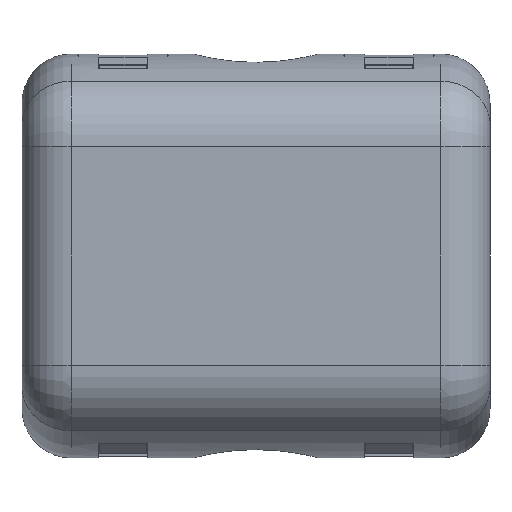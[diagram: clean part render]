
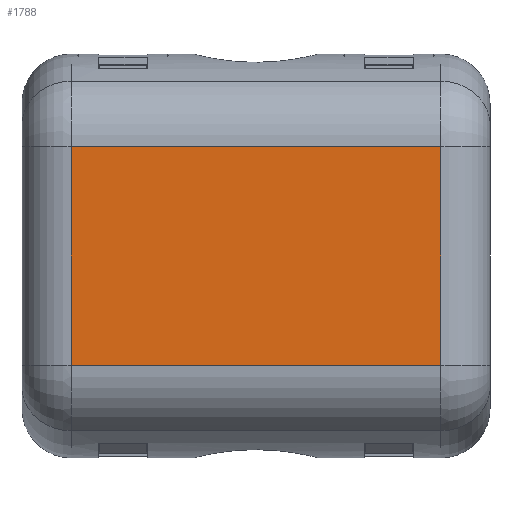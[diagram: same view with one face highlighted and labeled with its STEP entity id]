
A CAD part, front view. The second image highlights one B-rep face of the part: STEP entity #1788.
In plain terms, the highlighted planar face has unit normal (0, -1, 0) as drawn and (0, 1, 0) by its records, which use the part's own axes.
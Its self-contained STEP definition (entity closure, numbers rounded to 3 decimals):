
#77 = CARTESIAN_POINT ( 'NONE',  ( 85., 31., -22.129 ) ) ;
#271 = DIRECTION ( 'NONE',  ( -1., 0., 0. ) ) ;
#519 = VECTOR ( 'NONE', #3223, 1000. ) ;
#576 = CARTESIAN_POINT ( 'NONE',  ( 95., 31., 22.129 ) ) ;
#832 = CARTESIAN_POINT ( 'NONE',  ( 95., 31., 22.129 ) ) ;
#951 = CARTESIAN_POINT ( 'NONE',  ( 95., 31., -22.129 ) ) ;
#981 = EDGE_CURVE ( 'NONE', #2545, #1759, #3600, .T. ) ;
#1134 = ORIENTED_EDGE ( 'NONE', *, *, #3117, .T. ) ;
#1151 = LINE ( 'NONE', #2876, #519 ) ;
#1174 = ORIENTED_EDGE ( 'NONE', *, *, #1998, .T. ) ;
#1496 = VECTOR ( 'NONE', #3792, 1000. ) ;
#1522 = CARTESIAN_POINT ( 'NONE',  ( 10., 31., 22.129 ) ) ;
#1587 = LINE ( 'NONE', #951, #1496 ) ;
#1622 = CARTESIAN_POINT ( 'NONE',  ( 10., 31., -22.129 ) ) ;
#1718 = VERTEX_POINT ( 'NONE', #1522 ) ;
#1759 = VERTEX_POINT ( 'NONE', #77 ) ;
#1788 = ADVANCED_FACE ( 'NONE', ( #2983 ), #2941, .F. ) ;
#1835 = DIRECTION ( 'NONE',  ( 0., 0., -1. ) ) ;
#1878 = EDGE_LOOP ( 'NONE', ( #1174, #1134, #2316, #3698 ) ) ;
#1912 = VECTOR ( 'NONE', #271, 1000. ) ;
#1998 = EDGE_CURVE ( 'NONE', #1759, #4117, #1587, .T. ) ;
#2078 = VECTOR ( 'NONE', #3371, 1000. ) ;
#2141 = LINE ( 'NONE', #576, #1912 ) ;
#2316 = ORIENTED_EDGE ( 'NONE', *, *, #4603, .F. ) ;
#2545 = VERTEX_POINT ( 'NONE', #4242 ) ;
#2682 = CARTESIAN_POINT ( 'NONE',  ( 85., 31., -22.129 ) ) ;
#2876 = CARTESIAN_POINT ( 'NONE',  ( 10., 31., 22.129 ) ) ;
#2941 = PLANE ( 'NONE',  #4345 ) ;
#2983 = FACE_OUTER_BOUND ( 'NONE', #1878, .T. ) ;
#3117 = EDGE_CURVE ( 'NONE', #4117, #1718, #1151, .T. ) ;
#3223 = DIRECTION ( 'NONE',  ( 0., 0., 1. ) ) ;
#3371 = DIRECTION ( 'NONE',  ( 0., 0., -1. ) ) ;
#3600 = LINE ( 'NONE', #2682, #2078 ) ;
#3647 = DIRECTION ( 'NONE',  ( 0., -1., 0. ) ) ;
#3698 = ORIENTED_EDGE ( 'NONE', *, *, #981, .T. ) ;
#3792 = DIRECTION ( 'NONE',  ( -1., 0., 0. ) ) ;
#4117 = VERTEX_POINT ( 'NONE', #1622 ) ;
#4242 = CARTESIAN_POINT ( 'NONE',  ( 85., 31., 22.129 ) ) ;
#4345 = AXIS2_PLACEMENT_3D ( 'NONE', #832, #3647, #1835 ) ;
#4603 = EDGE_CURVE ( 'NONE', #2545, #1718, #2141, .T. ) ;
